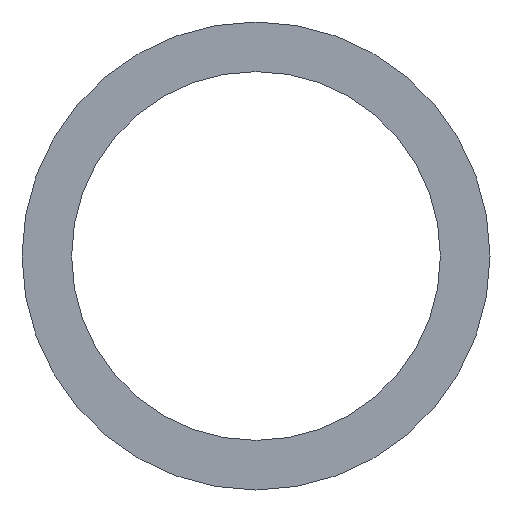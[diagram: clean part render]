
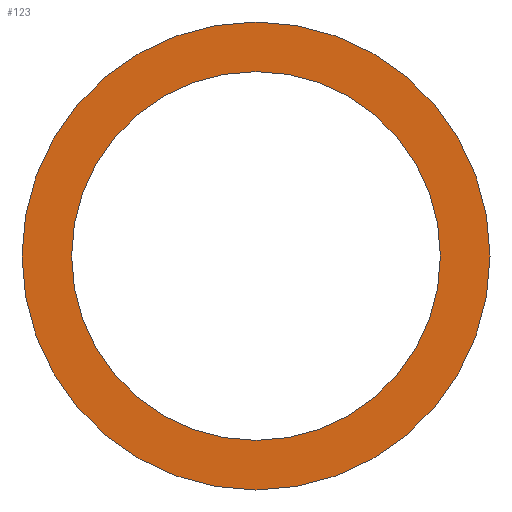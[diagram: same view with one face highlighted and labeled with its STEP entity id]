
A CAD part, front view. The second image highlights one B-rep face of the part: STEP entity #123.
In plain terms, the highlighted planar face has unit normal (0, -1, 0).
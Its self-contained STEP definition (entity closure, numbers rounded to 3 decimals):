
#39 = EDGE_CURVE('',#40,#40,#42,.T.);
#40 = VERTEX_POINT('',#41);
#41 = CARTESIAN_POINT('',(3.3,-0.425,0.));
#42 = SURFACE_CURVE('',#43,(#48,#60),.PCURVE_S1.);
#43 = CIRCLE('',#44,3.3);
#44 = AXIS2_PLACEMENT_3D('',#45,#46,#47);
#45 = CARTESIAN_POINT('',(0.,-0.425,0.));
#46 = DIRECTION('',(0.,-1.,0.));
#47 = DIRECTION('',(1.,0.,0.));
#48 = PCURVE('',#49,#54);
#49 = CYLINDRICAL_SURFACE('',#50,3.3);
#50 = AXIS2_PLACEMENT_3D('',#51,#52,#53);
#51 = CARTESIAN_POINT('',(0.,0.425,0.));
#52 = DIRECTION('',(0.,-1.,0.));
#53 = DIRECTION('',(1.,0.,0.));
#54 = DEFINITIONAL_REPRESENTATION('',(#55),#59);
#55 = LINE('',#56,#57);
#56 = CARTESIAN_POINT('',(0.,0.85));
#57 = VECTOR('',#58,1.);
#58 = DIRECTION('',(1.,0.));
#59 = ( GEOMETRIC_REPRESENTATION_CONTEXT(2) 
PARAMETRIC_REPRESENTATION_CONTEXT() REPRESENTATION_CONTEXT('2D SPACE',''
  ) );
#60 = PCURVE('',#61,#66);
#61 = PLANE('',#62);
#62 = AXIS2_PLACEMENT_3D('',#63,#64,#65);
#63 = CARTESIAN_POINT('',(0.,-0.425,0.));
#64 = DIRECTION('',(0.,-1.,0.));
#65 = DIRECTION('',(1.,0.,0.));
#66 = DEFINITIONAL_REPRESENTATION('',(#67),#71);
#67 = CIRCLE('',#68,3.3);
#68 = AXIS2_PLACEMENT_2D('',#69,#70);
#69 = CARTESIAN_POINT('',(0.,0.));
#70 = DIRECTION('',(1.,0.));
#71 = ( GEOMETRIC_REPRESENTATION_CONTEXT(2) 
PARAMETRIC_REPRESENTATION_CONTEXT() REPRESENTATION_CONTEXT('2D SPACE',''
  ) );
#123 = ADVANCED_FACE('',(#124,#127),#61,.T.);
#124 = FACE_BOUND('',#125,.T.);
#125 = EDGE_LOOP('',(#126));
#126 = ORIENTED_EDGE('',*,*,#39,.T.);
#127 = FACE_BOUND('',#128,.T.);
#128 = EDGE_LOOP('',(#129));
#129 = ORIENTED_EDGE('',*,*,#130,.F.);
#130 = EDGE_CURVE('',#131,#131,#133,.T.);
#131 = VERTEX_POINT('',#132);
#132 = CARTESIAN_POINT('',(2.6,-0.425,0.));
#133 = SURFACE_CURVE('',#134,(#139,#146),.PCURVE_S1.);
#134 = CIRCLE('',#135,2.6);
#135 = AXIS2_PLACEMENT_3D('',#136,#137,#138);
#136 = CARTESIAN_POINT('',(0.,-0.425,0.));
#137 = DIRECTION('',(0.,-1.,0.));
#138 = DIRECTION('',(1.,0.,0.));
#139 = PCURVE('',#61,#140);
#140 = DEFINITIONAL_REPRESENTATION('',(#141),#145);
#141 = CIRCLE('',#142,2.6);
#142 = AXIS2_PLACEMENT_2D('',#143,#144);
#143 = CARTESIAN_POINT('',(0.,0.));
#144 = DIRECTION('',(1.,0.));
#145 = ( GEOMETRIC_REPRESENTATION_CONTEXT(2) 
PARAMETRIC_REPRESENTATION_CONTEXT() REPRESENTATION_CONTEXT('2D SPACE',''
  ) );
#146 = PCURVE('',#147,#152);
#147 = CYLINDRICAL_SURFACE('',#148,2.6);
#148 = AXIS2_PLACEMENT_3D('',#149,#150,#151);
#149 = CARTESIAN_POINT('',(0.,1.5,0.));
#150 = DIRECTION('',(0.,-1.,0.));
#151 = DIRECTION('',(1.,0.,0.));
#152 = DEFINITIONAL_REPRESENTATION('',(#153),#157);
#153 = LINE('',#154,#155);
#154 = CARTESIAN_POINT('',(0.,1.925));
#155 = VECTOR('',#156,1.);
#156 = DIRECTION('',(1.,0.));
#157 = ( GEOMETRIC_REPRESENTATION_CONTEXT(2) 
PARAMETRIC_REPRESENTATION_CONTEXT() REPRESENTATION_CONTEXT('2D SPACE',''
  ) );
